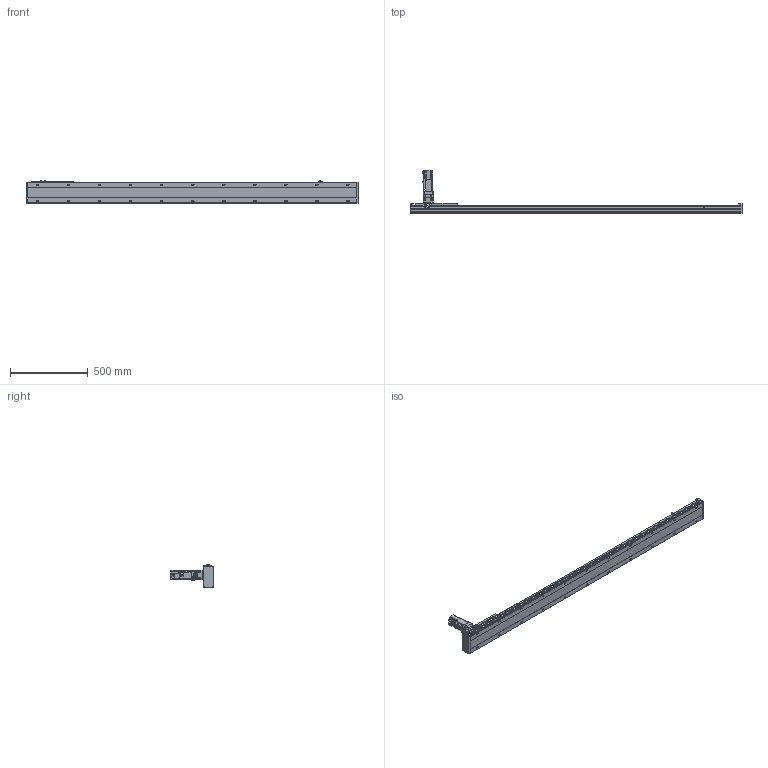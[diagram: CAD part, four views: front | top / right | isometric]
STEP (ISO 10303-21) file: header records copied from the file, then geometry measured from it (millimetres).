
FILE_DESCRIPTION(/* description */ ('STEP AP203'),/* implementation_level */ '2;1');
FILE_NAME(/* name */ 'SHS14A-L10-S1800-BC-T40-C1-N(0)',/* time_stamp */ '2023-03-27T08:49:23+02:00',/* author */ ('License CC BY-ND 4.0'),/* organization */ ('CADENAS'),/* preprocessor_version */ 'ST-DEVELOPER v19.3',/* originating_system */ 'PARTsolutions',/* authorisation */ ' ');
FILE_SCHEMA (('CONFIG_CONTROL_DESIGN'));
Length unit declared in the file: millimetre
Products named in the file (7): SHS14A-L10-S1800-BC-T40-C1-N(0); PSC140-sensor; T40-p1; SHS14AT_body3; SHS14A-1800_slider; SHS14A_body2; SHS14A-S1800-BC-T40-C1(0)_body
Assembly tree (13 placements, depth 2):
  SHS14A-L10-S1800-BC-T40-C1-N(0)
    PSC140-sensor  x3
    T40-p1
    SHS14AT_body3
    SHS14A-1800_slider
    SHS14A_body2  x6
    SHS14A-S1800-BC-T40-C1(0)_body
Bounding box: 2140 x 272.7 x 150.9 mm (x, y, z)
Volume: 9243400.2 mm3; surface area: 1452689 mm2
Topology: 13 solids, 13 shells, 2076 faces, 5303 edges, 3468 vertices
Faces by surface type: plane 1461, cylinder 531, cone 74, torus 10
Full cylindrical faces by diameter (mm): 2.8 x3, 4.134 x24, 4.2 x7, 4.4 x24, 4.5 x24, 4.6 x3, 4.8 x24, 4.917 x30, 5 x8, 5.5 x11, 5.94 x6, 6 x2, 6.6 x22, 8 x24, 8.49 x4, 8.5 x4, 9 x4, 10.5 x22, 13.964 x1, 14 x1, 14.182 x1, 16 x1, 18.974 x1, 19.274 x1, 19.774 x1, 19.8 x1, 34.442 x1, 42 x1, 50 x5
Entity records: 32912 total; most frequent: CARTESIAN_POINT 5832, DIRECTION 5565, ORIENTED_EDGE 5142, EDGE_CURVE 2571, AXIS2_PLACEMENT_3D 1921, VERTEX_POINT 1828, LINE 1723, VECTOR 1723
